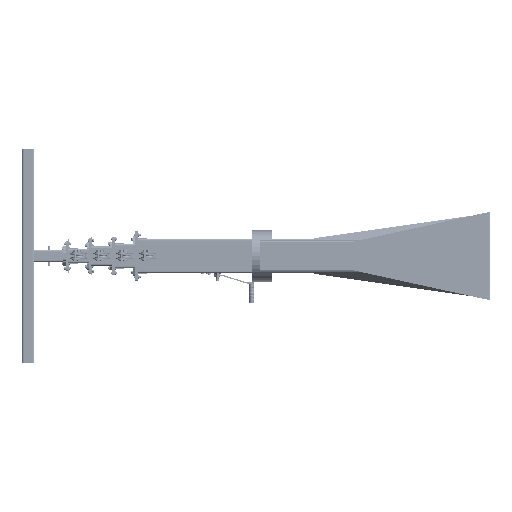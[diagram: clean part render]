
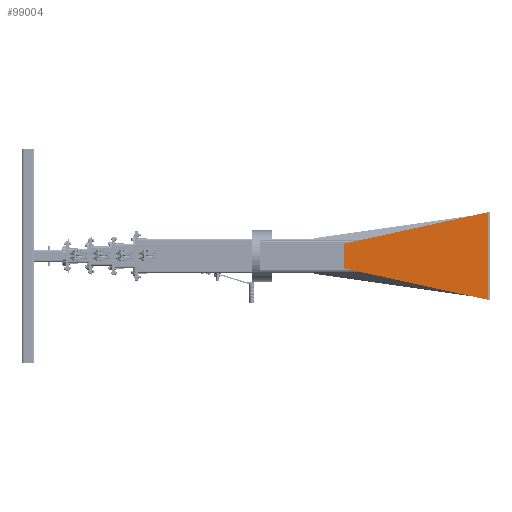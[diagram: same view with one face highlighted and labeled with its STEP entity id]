
A CAD part, left-side view. The second image highlights one B-rep face of the part: STEP entity #99004.
In plain terms, the highlighted planar face has unit normal (-1, 0, 0) as drawn and (0, 0, -1) by its records, which use the part's own axes.
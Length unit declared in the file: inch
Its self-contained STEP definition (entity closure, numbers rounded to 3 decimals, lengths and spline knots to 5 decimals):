
#2882 = DIRECTION ( 'NONE',  ( 0.214, 0.977, 0. ) ) ;
#18630 = DIRECTION ( 'NONE',  ( 0.214, -0.977, 0. ) ) ;
#22140 = ORIENTED_EDGE ( 'NONE', *, *, #166677, .F. ) ;
#23914 = FACE_OUTER_BOUND ( 'NONE', #51202, .T. ) ;
#24204 = LINE ( 'NONE', #140366, #155951 ) ;
#24948 = ORIENTED_EDGE ( 'NONE', *, *, #154851, .T. ) ;
#28741 = CARTESIAN_POINT ( 'NONE',  ( -2.5, 29.79657, -9. ) ) ;
#31676 = CARTESIAN_POINT ( 'NONE',  ( 9., 0.1, -9. ) ) ;
#38637 = VECTOR ( 'NONE', #102078, 39.37008 ) ;
#41346 = EDGE_CURVE ( 'NONE', #48670, #67139, #138169, .T. ) ;
#44071 = CARTESIAN_POINT ( 'NONE',  ( -9., 0.1, -9. ) ) ;
#45569 = CARTESIAN_POINT ( 'NONE',  ( -2.5, 29.79657, -9. ) ) ;
#48382 = DIRECTION ( 'NONE',  ( -1., 0., 0. ) ) ;
#48670 = VERTEX_POINT ( 'NONE', #44071 ) ;
#49247 = VECTOR ( 'NONE', #18630, 39.37008 ) ;
#50070 = DIRECTION ( 'NONE',  ( 0., -1., 0. ) ) ;
#51202 = EDGE_LOOP ( 'NONE', ( #24948, #104449, #137832, #22140 ) ) ;
#51923 = VERTEX_POINT ( 'NONE', #31676 ) ;
#67139 = VERTEX_POINT ( 'NONE', #45569 ) ;
#68210 = VECTOR ( 'NONE', #2882, 39.37008 ) ;
#75988 = CARTESIAN_POINT ( 'NONE',  ( -8.5, -13.69632, -9. ) ) ;
#76556 = CARTESIAN_POINT ( 'NONE',  ( 2.5, 29.79657, -9. ) ) ;
#89314 = EDGE_CURVE ( 'NONE', #51923, #48670, #24204, .T. ) ;
#99004 = ADVANCED_FACE ( 'NONE', ( #23914 ), #102417, .F. ) ;
#99054 = VERTEX_POINT ( 'NONE', #76556 ) ;
#102078 = DIRECTION ( 'NONE',  ( -1., 0., 0. ) ) ;
#102417 = PLANE ( 'NONE',  #163066 ) ;
#104449 = ORIENTED_EDGE ( 'NONE', *, *, #89314, .T. ) ;
#109508 = CARTESIAN_POINT ( 'NONE',  ( 2.5, 29.79657, -9. ) ) ;
#128900 = DIRECTION ( 'NONE',  ( 0., 0., 1. ) ) ;
#137832 = ORIENTED_EDGE ( 'NONE', *, *, #41346, .T. ) ;
#138169 = LINE ( 'NONE', #28741, #68210 ) ;
#140366 = CARTESIAN_POINT ( 'NONE',  ( -8.5, 0.1, -9. ) ) ;
#147665 = LINE ( 'NONE', #167661, #38637 ) ;
#154247 = LINE ( 'NONE', #109508, #49247 ) ;
#154851 = EDGE_CURVE ( 'NONE', #99054, #51923, #154247, .T. ) ;
#155951 = VECTOR ( 'NONE', #48382, 39.37008 ) ;
#163066 = AXIS2_PLACEMENT_3D ( 'NONE', #75988, #128900, #50070 ) ;
#166677 = EDGE_CURVE ( 'NONE', #99054, #67139, #147665, .T. ) ;
#167661 = CARTESIAN_POINT ( 'NONE',  ( -8.5, 29.79657, -9. ) ) ;
